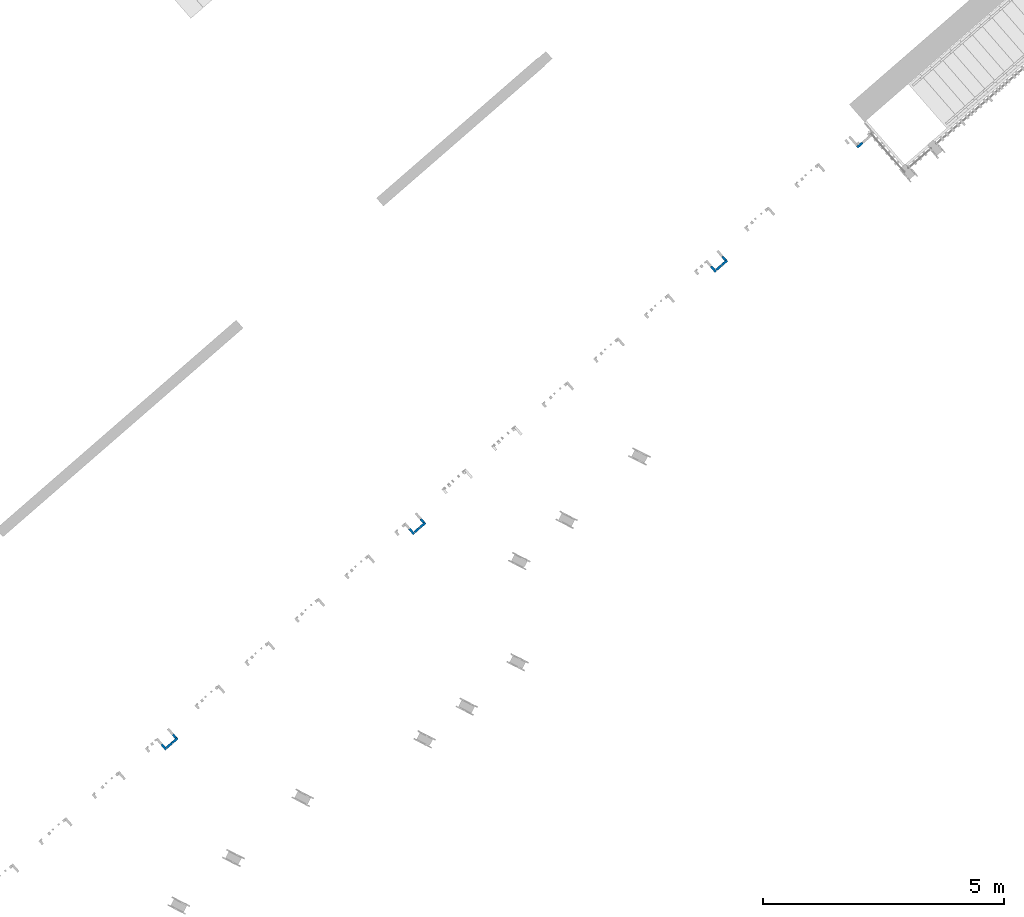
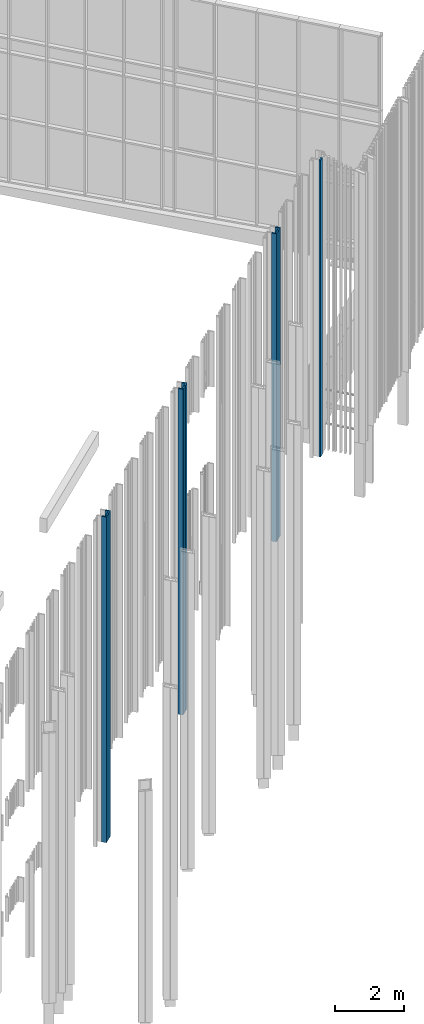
# One storey, part 21 of 390: 13 walls.
"""IFC2X3 building model written with IfcOpenShell, lengths in millimetres."""

import ifcopenshell
import ifcopenshell.guid

model = None  # the IFC model being written
_history = None  # IfcOwnerHistory: only IFC2X3 demands one
_inside = {}  # id of a spatial element -> (the spatial element, [elements in it])
_under = {}  # id of a project, library or spatial element -> (it, [spatial elements below it])
_declared = {}  # id of a project -> (the project, [libraries it declares])
_typed = {}  # id of a type object -> (the type object, [elements of that type])
_made_of = {}  # id of a material, layer set ... -> (it, [elements and type objects made of it])


def new_model(schema):
    """Start an empty IFC model of exactly this schema.

    Asked for "IFC4X3", IfcOpenShell would pick the latest addendum, in which some entities
    have other attributes; the version numbers below select the first issue.
    IFC2X3 requires an IfcOwnerHistory on every rooted entity: one is made here for all.
    """
    global model, _history
    if schema == "IFC4X3":
        model = ifcopenshell.file(schema_version=(4, 3, 0, 0))
    else:
        model = ifcopenshell.file(schema=schema)
    _inside.clear()
    _under.clear()
    _declared.clear()
    _typed.clear()
    _made_of.clear()
    _history = None
    if model.schema == "IFC2X3":
        org = make("IfcOrganization", Name="unknown")
        user = make(
            "IfcPersonAndOrganization",
            ThePerson=make("IfcPerson", FamilyName="unknown"),
            TheOrganization=org,
        )
        app = make(
            "IfcApplication",
            ApplicationDeveloper=org,
            Version="unknown",
            ApplicationFullName="unknown",
            ApplicationIdentifier="unknown",
        )
        _history = make(
            "IfcOwnerHistory",
            OwningUser=user,
            OwningApplication=app,
            ChangeAction="ADDED",
            CreationDate=0,
        )
    return model


def make(cls, **values):
    """One entity of the class cls with the attributes given. An attribute that is None is left unset."""
    return model.create_entity(
        cls, **{name: value for name, value in values.items() if value is not None}
    )


def entity(cls, *values):
    """Any entity or typed value of the class cls, its attributes in the order of the schema. None: left unset."""
    e = model.create_entity(cls)
    for i, value in enumerate(values):
        if value is not None:
            e[i] = value
    return e


def rooted(cls, **values):
    """An entity with a GlobalId (a new one), such as an element, a storey or a relation."""
    return make(cls, GlobalId=ifcopenshell.guid.new(), OwnerHistory=_history, **values)


def si_unit(unit_type, name, prefix=None):
    """IfcSIUnit, for example si_unit("LENGTHUNIT", "METRE", prefix="MILLI")."""
    return make("IfcSIUnit", UnitType=unit_type, Prefix=prefix, Name=name)


def converted_unit(unit_type, name, factor, base, dimensions=None, offset=None):
    """IfcConversionBasedUnit, such as the inch: factor (a typed value) times the base unit."""
    return make(
        "IfcConversionBasedUnit"
        if offset is None
        else "IfcConversionBasedUnitWithOffset",
        ConversionOffset=offset,
        Dimensions=None
        if dimensions is None
        else entity("IfcDimensionalExponents", *dimensions),
        UnitType=unit_type,
        Name=name,
        ConversionFactor=make(
            "IfcMeasureWithUnit", ValueComponent=factor, UnitComponent=base
        ),
    )


def derived_unit(unit_type, elements):
    """IfcDerivedUnit: a product of units, each with its exponent."""
    return make(
        "IfcDerivedUnit",
        Elements=[
            make("IfcDerivedUnitElement", Unit=unit, Exponent=power)
            for unit, power in elements
        ],
        UnitType=unit_type,
    )


def money_unit(currency):
    """IfcMonetaryUnit."""
    return make("IfcMonetaryUnit", Currency=currency)


def assignment(units):
    """IfcUnitAssignment: the units of a project."""
    return None if units is None else make("IfcUnitAssignment", Units=units)


def point(xyz):
    """IfcCartesianPoint."""
    return None if xyz is None else make("IfcCartesianPoint", Coordinates=xyz)


def direction(xyz):
    """IfcDirection."""
    return None if xyz is None else make("IfcDirection", DirectionRatios=xyz)


def frame(location, z_axis=None, x_axis=None):
    """IfcAxis2Placement3D, a coordinate frame: its origin and axes. An axis left out is left unset."""
    return make(
        "IfcAxis2Placement3D",
        Location=point(location),
        Axis=direction(z_axis),
        RefDirection=direction(x_axis),
    )


def frame_2d(location, x_axis=None):
    """IfcAxis2Placement2D, a coordinate frame in the plane: its origin and x axis."""
    return make(
        "IfcAxis2Placement2D", Location=point(location), RefDirection=direction(x_axis)
    )


def origin_with_axes():
    """The frame at (0, 0, 0) with the z axis (0, 0, 1) and the x axis (1, 0, 0) written out."""
    return frame((0.0, 0.0, 0.0), z_axis=(0.0, 0.0, 1.0), x_axis=(1.0, 0.0, 0.0))


def origin_2d_with_axis():
    """The frame at (0, 0) in the plane with the x axis (1, 0) written out."""
    return frame_2d((0.0, 0.0), x_axis=(1.0, 0.0))


def place(relative_to, where):
    """IfcLocalPlacement: puts the frame where relative to a parent placement (None: the world)."""
    return make(
        "IfcLocalPlacement", PlacementRelTo=relative_to, RelativePlacement=where
    )


def context(
    kind, dimensions, precision=None, world=None, true_north=None, identifier=None
):
    """IfcGeometricRepresentationContext, for example the 3D "Model" context."""
    return make(
        "IfcGeometricRepresentationContext",
        ContextIdentifier=identifier,
        ContextType=kind,
        CoordinateSpaceDimension=dimensions,
        Precision=precision,
        WorldCoordinateSystem=world,
        TrueNorth=true_north,
    )


def subcontext(parent, identifier, kind, view, scale=None):
    """IfcGeometricRepresentationSubContext, for example "Body" below "Model"."""
    return make(
        "IfcGeometricRepresentationSubContext",
        ContextIdentifier=identifier,
        ContextType=kind,
        ParentContext=parent,
        TargetScale=scale,
        TargetView=view,
    )


def project(units=None, contexts=None):
    """IfcProject with its units and contexts."""
    return rooted(
        "IfcProject",
        Name="project",
        RepresentationContexts=contexts,
        UnitsInContext=assignment(units),
    )


def spatial(cls, under=None, at=None, **own):
    """A site, building, storey or space (cls), placed at a placement, below another one or the project."""
    s = rooted(cls, ObjectPlacement=at, **own)
    if under is not None:
        _under.setdefault(under.id(), (under, []))[1].append(s)
    return s


def profile(cls, at=None, kind="AREA", **sizes):
    """A parametric profile (cls). Its sizes go by their IFC names, for example OverallWidth=200.0."""
    return make(cls, ProfileType=kind, Position=at, **sizes)


def rectangle(**sizes):
    """IfcRectangleProfileDef."""
    return profile("IfcRectangleProfileDef", **sizes)


def extrude(swept, where, along, depth):
    """IfcExtrudedAreaSolid: the profile swept, set in the frame where, extruded along a direction by depth."""
    return make(
        "IfcExtrudedAreaSolid",
        SweptArea=swept,
        Position=where,
        ExtrudedDirection=direction(along),
        Depth=depth,
    )


def shape(context_of_items, identifier, shape_type, items):
    """IfcShapeRepresentation: the items that make up one representation, for example the "Body"."""
    return make(
        "IfcShapeRepresentation",
        ContextOfItems=context_of_items,
        RepresentationIdentifier=identifier,
        RepresentationType=shape_type,
        Items=items,
    )


def material(Name=None, Category=None):
    """IfcMaterial."""
    return make("IfcMaterial", Name=Name, Category=Category)


def made_of(thing, what):
    """Note that an element or type object is made of a material, layer set ...; save() writes the relation."""
    if what is not None:
        _made_of.setdefault(what.id(), (what, []))[1].append(thing)
    return thing


def type_object(cls, material=None, **own):
    """A type object (cls), such as IfcWallType, which elements share."""
    return made_of(rooted(cls, **own), material)


def element(
    cls,
    number,
    at=None,
    inside=None,
    cuts=None,
    type_object=None,
    material=None,
    context=None,
    identifier="Body",
    shape_type=None,
    held_by="IfcProductDefinitionShape",
    body=None,
    shapes=None,
    **own,
):
    """One element of the class cls, such as IfcWall. Its Tag is "e" and its number.

    at: its placement. inside: the storey or other place that contains it. cuts: it is an
    opening in that element (IfcRelVoidsElement). A single representation is given by context,
    identifier, shape_type and body (its items); several are given by shapes. held_by: the class
    of the entity that holds the representations. save() writes the other relations.
    """
    e = rooted(cls, Tag="e%d" % number, ObjectPlacement=at, **own)
    if body is not None:
        shapes = [shape(context, identifier, shape_type, body)]
    if shapes is not None:
        e.Representation = make(held_by, Representations=shapes)
    if inside is not None:
        _inside.setdefault(inside.id(), (inside, []))[1].append(e)
    if cuts is not None:
        rooted(
            "IfcRelVoidsElement", RelatingBuildingElement=cuts, RelatedOpeningElement=e
        )
    if type_object is not None:
        _typed.setdefault(type_object.id(), (type_object, []))[1].append(e)
    return made_of(e, material)


def aggregate(whole, parts):
    """IfcRelAggregates: a whole, such as a stair, and the parts it consists of."""
    return rooted("IfcRelAggregates", RelatingObject=whole, RelatedObjects=parts)


def save(model, path):
    """Write the relations noted so far, then the file.

    IfcRelAggregates (storeys below a building ...), IfcRelContainedInSpatialStructure (elements
    in a storey), IfcRelDefinesByType, IfcRelAssociatesMaterial and IfcRelDeclares: one each for
    every whole, place, type object, material and project.
    """
    for whole, parts in _under.values():
        aggregate(whole, parts)
    for where, things in _inside.values():
        rooted(
            "IfcRelContainedInSpatialStructure",
            RelatedElements=things,
            RelatingStructure=where,
        )
    for kind, things in _typed.values():
        rooted("IfcRelDefinesByType", RelatedObjects=things, RelatingType=kind)
    for what, things in _made_of.values():
        rooted("IfcRelAssociatesMaterial", RelatedObjects=things, RelatingMaterial=what)
    for by, libraries in _declared.values():
        rooted("IfcRelDeclares", RelatingContext=by, RelatedDefinitions=libraries)
    model.write(path)


model = new_model("IFC2X3")

# Units and contexts
model_context = context("Model", 3, precision=1e-05, world=origin_with_axes(), true_north=direction((0.0, 1.0)))
body_context = subcontext(model_context, "Body", "Model", "MODEL_VIEW")
ifc_project = project(units=[si_unit("LENGTHUNIT", "METRE", prefix="MILLI"), si_unit("AREAUNIT", "SQUARE_METRE"), si_unit("VOLUMEUNIT", "CUBIC_METRE"), converted_unit("PLANEANGLEUNIT", "DEGREE", entity("IfcPlaneAngleMeasure", 0.0174532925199), si_unit("PLANEANGLEUNIT", "RADIAN"), dimensions=[0, 0, 0, 0, 0, 0, 0]), si_unit("SOLIDANGLEUNIT", "STERADIAN"), money_unit("EUR"), converted_unit("TIMEUNIT", "Year", entity("IfcTimeMeasure", 31556926.0), si_unit("TIMEUNIT", "SECOND"), dimensions=[0, 0, 1, 0, 0, 0, 0]), si_unit("MASSUNIT", "GRAM", prefix="KILO"), si_unit("THERMODYNAMICTEMPERATUREUNIT", "DEGREE_CELSIUS"), si_unit("LUMINOUSINTENSITYUNIT", "LUMEN"), si_unit("ENERGYUNIT", "JOULE", prefix="MEGA"), derived_unit("THERMALCONDUCTANCEUNIT", [(si_unit("POWERUNIT", "WATT"), 1), (si_unit("LENGTHUNIT", "METRE"), -1), (si_unit("THERMODYNAMICTEMPERATUREUNIT", "KELVIN"), -1)]), derived_unit("SPECIFICHEATCAPACITYUNIT", [(si_unit("ENERGYUNIT", "JOULE"), 1), (si_unit("MASSUNIT", "GRAM", prefix="KILO"), -1), (si_unit("THERMODYNAMICTEMPERATUREUNIT", "KELVIN"), -1)]), derived_unit("MASSDENSITYUNIT", [(si_unit("MASSUNIT", "GRAM", prefix="KILO"), 1), (si_unit("VOLUMEUNIT", "CUBIC_METRE"), -1)])], contexts=[model_context])

# Site, building, storey
site_placement = place(None, origin_with_axes())
site = spatial("IfcSite", under=ifc_project, at=site_placement, Name="Site", CompositionType="ELEMENT")
building_placement = place(site_placement, origin_with_axes())
building = spatial("IfcBuilding", under=site, at=building_placement, Name="Building", CompositionType="ELEMENT")
storey_placement = place(building_placement, origin_with_axes())
storey = spatial("IfcBuildingStorey", under=building, at=storey_placement, Name="1 korrus", CompositionType="ELEMENT", Elevation=0.0)

# Walls
ifc_material = material(Name="Site specified")
wall_type = type_object("IfcWallType", Name="Puitfassaadi ribisik", PredefinedType="NOTDEFINED")
wall_1_placement = place(storey_placement, frame((163391.07174, 86425.8061034, -1615.0), z_axis=(0.0, 0.0, 1.0), x_axis=(-0.754709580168, -0.656059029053, 0.0)))
element("IfcWall", 1, at=wall_1_placement, inside=storey, type_object=wall_type, material=ifc_material, Name="Site specified", context=body_context, shape_type="SweptSolid", body=[
    extrude(rectangle(XDim=50.0, YDim=100.000069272, at=origin_2d_with_axis()), origin_with_axes(), (0.0, 0.0, 1.0), 11479.9999949),
])
wall_2_placement = place(storey_placement, frame((163402.540687, 86336.399886, -1615.0), z_axis=(0.0, 0.0, 1.0), x_axis=(0.656059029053, -0.754709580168, 0.0)))
element("IfcWall", 2, at=wall_2_placement, inside=storey, type_object=wall_type, material=ifc_material, Name="Site specified", context=body_context, shape_type="SweptSolid", body=[
    extrude(rectangle(XDim=50.0, YDim=150.0, at=origin_2d_with_axis()), origin_with_axes(), (0.0, 0.0, 1.0), 11479.9999949),
])
wall_3_placement = place(storey_placement, frame((169534.06464, 91666.4522503, -995.478632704), z_axis=(0.0, 0.0, 1.0), x_axis=(0.656059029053, -0.754709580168, 0.0)))
element("IfcWall", 3, at=wall_3_placement, inside=storey, type_object=wall_type, material=ifc_material, Name="Site specified", context=body_context, shape_type="SweptSolid", body=[
    extrude(rectangle(XDim=50.0, YDim=150.0, at=origin_2d_with_axis()), origin_with_axes(), (0.0, 0.0, 1.0), 10860.4786276),
])
wall_4_placement = place(storey_placement, frame((169639.575678, 91857.5476172, -995.478632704), z_axis=(0.0, 0.0, 1.0), x_axis=(-0.754709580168, -0.656059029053, 0.0)))
element("IfcWall", 4, at=wall_4_placement, inside=storey, type_object=wall_type, material=ifc_material, Name="Site specified", context=body_context, shape_type="SweptSolid", body=[
    extrude(rectangle(XDim=50.0, YDim=100.000069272, at=origin_2d_with_axis()), origin_with_axes(), (0.0, 0.0, 1.0), 10860.4786276),
])
wall_5_placement = place(storey_placement, frame((158270.514893, 81875.1978332, -1615.0), z_axis=(0.0, 0.0, 1.0), x_axis=(0.656059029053, -0.754709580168, 0.0)))
element("IfcWall", 5, at=wall_5_placement, inside=storey, type_object=wall_type, material=ifc_material, Name="Site specified", context=body_context, shape_type="SweptSolid", body=[
    extrude(rectangle(XDim=50.0, YDim=150.0, at=origin_2d_with_axis()), origin_with_axes(), (0.0, 0.0, 1.0), 11479.9999949),
])
wall_6_placement = place(storey_placement, frame((158259.045947, 81964.6040506, -1615.0), z_axis=(0.0, 0.0, 1.0), x_axis=(-0.754709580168, -0.656059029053, 0.0)))
element("IfcWall", 6, at=wall_6_placement, inside=storey, type_object=wall_type, material=ifc_material, Name="Site specified", context=body_context, shape_type="SweptSolid", body=[
    extrude(rectangle(XDim=50.0, YDim=100.000069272, at=origin_2d_with_axis()), origin_with_axes(), (0.0, 0.0, 1.0), 11479.9999949),
])
for number, where, z_axis, x_axis, name in (
    (7, (163285.560702, 86234.7107365, -1615.0), (0.0, 0.0, 1.0), (0.656059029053, -0.754709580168, 0.0), "Site specified"),
    (8, (158153.534908, 81773.5086837, -1615.0), (0.0, 0.0, 1.0), (0.656059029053, -0.754709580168, 0.0), "Site specified"),
):
    element("IfcWall", number, at=place(storey_placement, frame(where, z_axis=z_axis, x_axis=x_axis)), inside=storey, type_object=wall_type, material=ifc_material, Name=name, context=body_context, shape_type="SweptSolid", body=[
        extrude(rectangle(XDim=50.0, YDim=150.0, at=origin_2d_with_axis()), origin_with_axes(), (0.0, 0.0, 1.0), 11479.9999949),
    ])
wall_7_placement = place(storey_placement, frame((172453.772708, 94204.5158447, -597.999974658), z_axis=(0.0, 0.0, 1.0), x_axis=(0.656059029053, -0.754709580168, 0.0)))
element("IfcWall", 9, at=wall_7_placement, inside=storey, type_object=wall_type, material=ifc_material, Name="Site specified", context=body_context, shape_type="SweptSolid", body=[
    extrude(rectangle(XDim=50.0, YDim=150.000000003, at=origin_2d_with_axis()), origin_with_axes(), (0.0, 0.0, 1.0), 10462.9999696),
])
for number, where, z_axis, x_axis, name in (
    (10, (158041.487451, 81742.3579647, -1615.0), (0.0, 0.0, 1.0), (-0.754709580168, -0.656059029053, 0.0), "Site specified"),
    (11, (163173.513244, 86203.5600174, -1615.0), (0.0, 0.0, 1.0), (-0.754709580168, -0.656059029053, 0.0), "Site specified"),
):
    element("IfcWall", number, at=place(storey_placement, frame(where, z_axis=z_axis, x_axis=x_axis)), inside=storey, type_object=wall_type, material=ifc_material, Name=name, context=body_context, shape_type="SweptSolid", body=[
        extrude(rectangle(XDim=50.0, YDim=150.0, at=origin_2d_with_axis()), origin_with_axes(), (0.0, 0.0, 1.0), 11479.9999949),
    ])
for number, where, z_axis, x_axis, name in (
    (12, (169651.044625, 91768.1413998, -995.478632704), (0.0, 0.0, 1.0), (0.656059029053, -0.754709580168, 0.0), "Site specified"),
    (13, (169422.017182, 91635.3015312, -995.478632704), (0.0, 0.0, 1.0), (-0.754709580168, -0.656059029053, 0.0), "Site specified"),
):
    element("IfcWall", number, at=place(storey_placement, frame(where, z_axis=z_axis, x_axis=x_axis)), inside=storey, type_object=wall_type, material=ifc_material, Name=name, context=body_context, shape_type="SweptSolid", body=[
        extrude(rectangle(XDim=50.0, YDim=150.0, at=origin_2d_with_axis()), origin_with_axes(), (0.0, 0.0, 1.0), 10860.4786276),
    ])

save(model, "model.ifc")
